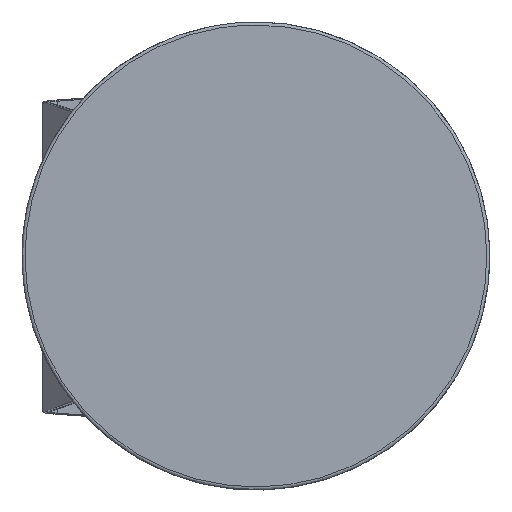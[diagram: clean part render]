
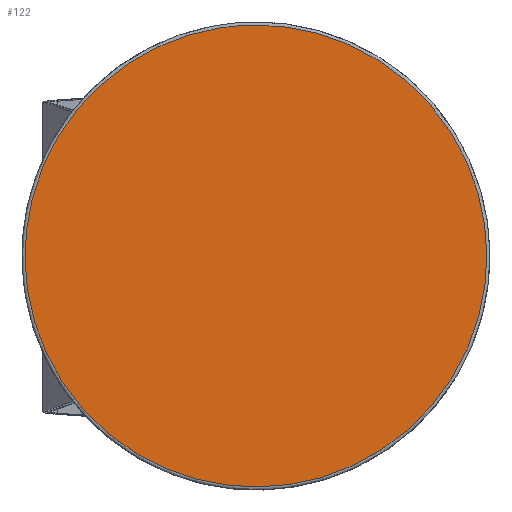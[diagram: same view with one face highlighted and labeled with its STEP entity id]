
A CAD part, top view. The second image highlights one B-rep face of the part: STEP entity #122.
In plain terms, the highlighted planar face has unit normal (0, 0, 1).
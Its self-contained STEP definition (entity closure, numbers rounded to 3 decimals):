
#122=ADVANCED_FACE('',(#248),#1644,.T.);
#248=FACE_OUTER_BOUND('',#388,.T.);
#388=EDGE_LOOP('',(#766));
#766=ORIENTED_EDGE('',*,*,#1128,.F.);
#1128=EDGE_CURVE('',#1584,#1584,#1424,.T.);
#1424=(
BOUNDED_CURVE()
B_SPLINE_CURVE(2,(#8193,#8194,#8195,#8196,#8197,#8198,#8199,#8200,#8201),
 .UNSPECIFIED.,.T.,.F.)
B_SPLINE_CURVE_WITH_KNOTS((3,2,2,2,3),(0.,348.717,697.434,
1046.15,1394.867),.UNSPECIFIED.)
CURVE()
GEOMETRIC_REPRESENTATION_ITEM()
RATIONAL_B_SPLINE_CURVE((1.,0.707,1.,0.707,1.,0.707,
1.,0.707,1.))
REPRESENTATION_ITEM('')
);
#1584=VERTEX_POINT('',#8177);
#1644=PLANE('',#1787);
#1787=AXIS2_PLACEMENT_3D('',#8119,#1802,$);
#1802=DIRECTION('',(0.,0.,1.));
#8119=CARTESIAN_POINT('',(-281.25,-281.25,650.));
#8177=CARTESIAN_POINT('',(0.,222.,650.));
#8193=CARTESIAN_POINT('',(0.,222.,650.));
#8194=CARTESIAN_POINT('',(222.,222.,650.));
#8195=CARTESIAN_POINT('',(222.,0.,650.));
#8196=CARTESIAN_POINT('',(222.,-222.,650.));
#8197=CARTESIAN_POINT('',(0.,-222.,650.));
#8198=CARTESIAN_POINT('',(-222.,-222.,650.));
#8199=CARTESIAN_POINT('',(-222.,0.,650.));
#8200=CARTESIAN_POINT('',(-222.,222.,650.));
#8201=CARTESIAN_POINT('',(0.,222.,650.));
